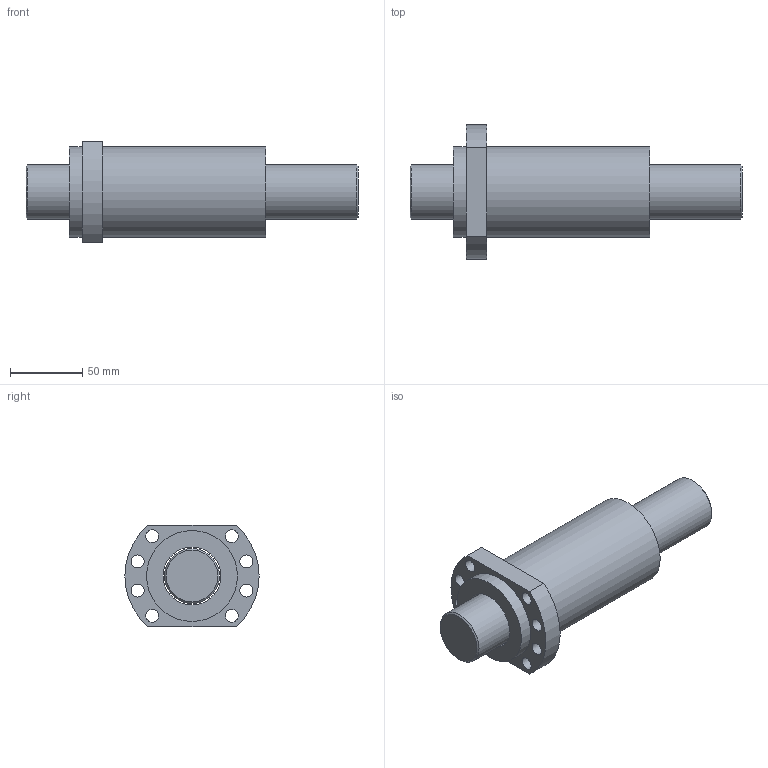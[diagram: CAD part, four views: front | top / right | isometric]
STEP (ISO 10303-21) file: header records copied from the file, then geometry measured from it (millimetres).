
FILE_DESCRIPTION(/* description */ (''),/* implementation_level */ '2;1');
FILE_NAME(/* name */ 'SFA4040-2.8.stp',/* time_stamp */ '2019-04-02T13:25:53+08:00',/* author */ (''),/* organization */ (''),/* preprocessor_version */ 'ST-DEVELOPER v14',/* originating_system */ 'SIEMENS PLM Software NX 8.0',/* authorisation */ '');
FILE_SCHEMA (('AP203_CONFIGURATION_CONTROLLED_3D_DESIGN_OF_MECHANICAL_PARTS_AND_ASSEMBLIES_MIM_LF { 1 0 10303 403 2 1 2}'));
Length unit declared in the file: millimetre
Products named in the file (1): 00251B18CDB0b5kw
Bounding box: 230 x 93 x 70 mm (x, y, z)
Volume: 544598.4 mm3; surface area: 86044.9 mm2
Topology: 2 solids, 2 shells, 24 faces, 55 edges, 37 vertices
Faces by surface type: cylinder 14, plane 8, cone 2
Full cylindrical faces by diameter (mm): 9 x8, 38 x1, 40 x1, 63 x2
Entity records: 726 total; most frequent: DIRECTION 118, CARTESIAN_POINT 97, ORIENTED_EDGE 76, EDGE_LOOP 58, AXIS2_PLACEMENT_3D 55, FACE_BOUND 52, EDGE_CURVE 38, VERTEX_POINT 34
